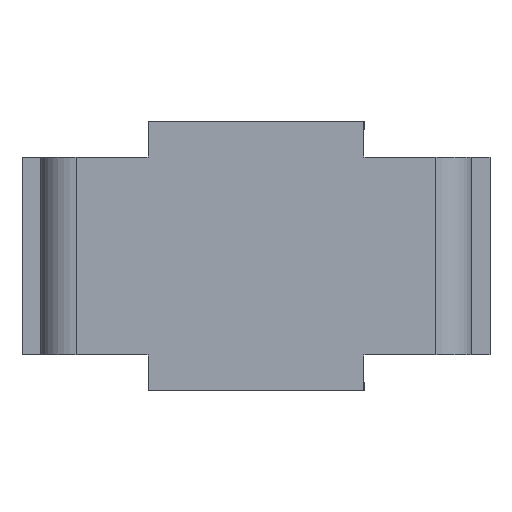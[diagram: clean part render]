
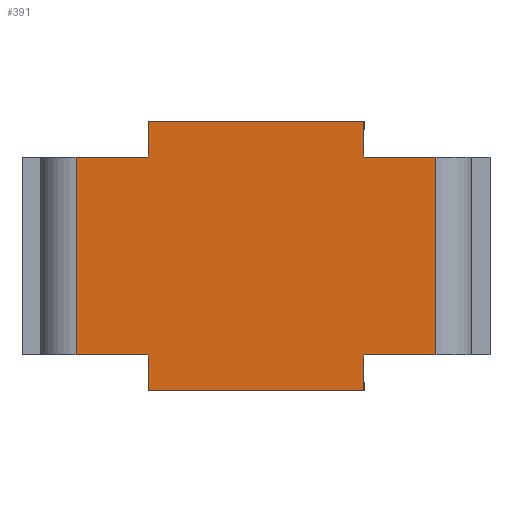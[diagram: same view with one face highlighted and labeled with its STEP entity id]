
A CAD part, left-side view. The second image highlights one B-rep face of the part: STEP entity #391.
In plain terms, the highlighted planar face has unit normal (-1, 0, 0).
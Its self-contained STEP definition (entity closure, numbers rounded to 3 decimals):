
#12 = CARTESIAN_POINT ( 'NONE',  ( -44., -6., 7.5 ) ) ;
#24 = VERTEX_POINT ( 'NONE', #90 ) ;
#57 = EDGE_CURVE ( 'NONE', #892, #147, #296, .T. ) ;
#63 = ORIENTED_EDGE ( 'NONE', *, *, #594, .F. ) ;
#81 = ORIENTED_EDGE ( 'NONE', *, *, #153, .T. ) ;
#90 = CARTESIAN_POINT ( 'NONE',  ( -44., -6., 5.5 ) ) ;
#94 = VECTOR ( 'NONE', #1123, 1000. ) ;
#118 = LINE ( 'NONE', #12, #1078 ) ;
#120 = DIRECTION ( 'NONE',  ( 0., 0., -1. ) ) ;
#147 = VERTEX_POINT ( 'NONE', #530 ) ;
#153 = EDGE_CURVE ( 'NONE', #467, #644, #1217, .T. ) ;
#157 = VECTOR ( 'NONE', #437, 1000. ) ;
#170 = VECTOR ( 'NONE', #427, 1000. ) ;
#178 = VECTOR ( 'NONE', #219, 1000. ) ;
#188 = ORIENTED_EDGE ( 'NONE', *, *, #952, .F. ) ;
#214 = VECTOR ( 'NONE', #886, 1000. ) ;
#218 = EDGE_CURVE ( 'NONE', #467, #147, #579, .T. ) ;
#219 = DIRECTION ( 'NONE',  ( 0., 0., -1. ) ) ;
#226 = AXIS2_PLACEMENT_3D ( 'NONE', #495, #403, #458 ) ;
#245 = VERTEX_POINT ( 'NONE', #812 ) ;
#246 = LINE ( 'NONE', #641, #94 ) ;
#257 = LINE ( 'NONE', #399, #406 ) ;
#259 = DIRECTION ( 'NONE',  ( 0., -1., 0. ) ) ;
#275 = LINE ( 'NONE', #1038, #664 ) ;
#296 = LINE ( 'NONE', #1033, #1138 ) ;
#308 = CARTESIAN_POINT ( 'NONE',  ( -44., -6., 7.5 ) ) ;
#316 = CARTESIAN_POINT ( 'NONE',  ( -44., 10., 5.5 ) ) ;
#320 = VERTEX_POINT ( 'NONE', #1090 ) ;
#353 = VECTOR ( 'NONE', #732, 1000. ) ;
#368 = CARTESIAN_POINT ( 'NONE',  ( -44., -6., 7.5 ) ) ;
#369 = EDGE_CURVE ( 'NONE', #245, #892, #946, .T. ) ;
#391 = ADVANCED_FACE ( 'NONE', ( #1117 ), #597, .F. ) ;
#399 = CARTESIAN_POINT ( 'NONE',  ( -44., 6., 7.5 ) ) ;
#403 = DIRECTION ( 'NONE',  ( 1., 0., 0. ) ) ;
#406 = VECTOR ( 'NONE', #120, 1000. ) ;
#408 = LINE ( 'NONE', #465, #524 ) ;
#411 = ORIENTED_EDGE ( 'NONE', *, *, #1128, .T. ) ;
#427 = DIRECTION ( 'NONE',  ( 0., 0., 1. ) ) ;
#437 = DIRECTION ( 'NONE',  ( 0., -1., 0. ) ) ;
#453 = LINE ( 'NONE', #922, #353 ) ;
#458 = DIRECTION ( 'NONE',  ( 0., 0., -1. ) ) ;
#460 = ORIENTED_EDGE ( 'NONE', *, *, #218, .F. ) ;
#465 = CARTESIAN_POINT ( 'NONE',  ( -44., -10., 5.5 ) ) ;
#467 = VERTEX_POINT ( 'NONE', #912 ) ;
#474 = ORIENTED_EDGE ( 'NONE', *, *, #577, .F. ) ;
#486 = CARTESIAN_POINT ( 'NONE',  ( -44., -6., -7.5 ) ) ;
#495 = CARTESIAN_POINT ( 'NONE',  ( -44., 13., 5.5 ) ) ;
#499 = CARTESIAN_POINT ( 'NONE',  ( -44., 13., 5.5 ) ) ;
#505 = ORIENTED_EDGE ( 'NONE', *, *, #369, .T. ) ;
#506 = EDGE_LOOP ( 'NONE', ( #1089, #460, #81, #552, #633, #411, #188, #520, #63, #634, #474, #505 ) ) ;
#520 = ORIENTED_EDGE ( 'NONE', *, *, #715, .F. ) ;
#524 = VECTOR ( 'NONE', #758, 1000. ) ;
#530 = CARTESIAN_POINT ( 'NONE',  ( -44., 6., -5.5 ) ) ;
#552 = ORIENTED_EDGE ( 'NONE', *, *, #1019, .T. ) ;
#566 = CARTESIAN_POINT ( 'NONE',  ( -44., 10., -5.5 ) ) ;
#571 = VERTEX_POINT ( 'NONE', #992 ) ;
#576 = DIRECTION ( 'NONE',  ( 0., 0., -1. ) ) ;
#577 = EDGE_CURVE ( 'NONE', #245, #571, #986, .T. ) ;
#579 = LINE ( 'NONE', #1004, #170 ) ;
#594 = EDGE_CURVE ( 'NONE', #1009, #1118, #911, .T. ) ;
#597 = PLANE ( 'NONE',  #226 ) ;
#603 = CARTESIAN_POINT ( 'NONE',  ( -44., -10., -5.5 ) ) ;
#631 = EDGE_CURVE ( 'NONE', #1009, #571, #257, .T. ) ;
#633 = ORIENTED_EDGE ( 'NONE', *, *, #1087, .T. ) ;
#634 = ORIENTED_EDGE ( 'NONE', *, *, #631, .T. ) ;
#641 = CARTESIAN_POINT ( 'NONE',  ( -44., -6., -7.5 ) ) ;
#644 = VERTEX_POINT ( 'NONE', #486 ) ;
#664 = VECTOR ( 'NONE', #846, 1000. ) ;
#679 = VERTEX_POINT ( 'NONE', #1162 ) ;
#715 = EDGE_CURVE ( 'NONE', #1118, #24, #118, .T. ) ;
#732 = DIRECTION ( 'NONE',  ( 0., -1., 0. ) ) ;
#739 = CARTESIAN_POINT ( 'NONE',  ( -44., 6., 7.5 ) ) ;
#758 = DIRECTION ( 'NONE',  ( 0., 0., 1. ) ) ;
#812 = CARTESIAN_POINT ( 'NONE',  ( -44., 10., 5.5 ) ) ;
#840 = VERTEX_POINT ( 'NONE', #603 ) ;
#846 = DIRECTION ( 'NONE',  ( 0., -1., 0. ) ) ;
#886 = DIRECTION ( 'NONE',  ( 0., -1., 0. ) ) ;
#892 = VERTEX_POINT ( 'NONE', #566 ) ;
#893 = VECTOR ( 'NONE', #895, 1000. ) ;
#895 = DIRECTION ( 'NONE',  ( 0., -1., 0. ) ) ;
#911 = LINE ( 'NONE', #308, #214 ) ;
#912 = CARTESIAN_POINT ( 'NONE',  ( -44., 6., -7.5 ) ) ;
#922 = CARTESIAN_POINT ( 'NONE',  ( -44., 13., 5.5 ) ) ;
#946 = LINE ( 'NONE', #316, #178 ) ;
#952 = EDGE_CURVE ( 'NONE', #24, #320, #453, .T. ) ;
#986 = LINE ( 'NONE', #499, #893 ) ;
#992 = CARTESIAN_POINT ( 'NONE',  ( -44., 6., 5.5 ) ) ;
#1004 = CARTESIAN_POINT ( 'NONE',  ( -44., 6., -7.5 ) ) ;
#1009 = VERTEX_POINT ( 'NONE', #739 ) ;
#1019 = EDGE_CURVE ( 'NONE', #644, #679, #246, .T. ) ;
#1033 = CARTESIAN_POINT ( 'NONE',  ( -44., 13., -5.5 ) ) ;
#1038 = CARTESIAN_POINT ( 'NONE',  ( -44., 13., -5.5 ) ) ;
#1078 = VECTOR ( 'NONE', #576, 1000. ) ;
#1087 = EDGE_CURVE ( 'NONE', #679, #840, #275, .T. ) ;
#1089 = ORIENTED_EDGE ( 'NONE', *, *, #57, .T. ) ;
#1090 = CARTESIAN_POINT ( 'NONE',  ( -44., -10., 5.5 ) ) ;
#1112 = CARTESIAN_POINT ( 'NONE',  ( -44., -6., -7.5 ) ) ;
#1117 = FACE_OUTER_BOUND ( 'NONE', #506, .T. ) ;
#1118 = VERTEX_POINT ( 'NONE', #368 ) ;
#1123 = DIRECTION ( 'NONE',  ( 0., 0., 1. ) ) ;
#1128 = EDGE_CURVE ( 'NONE', #840, #320, #408, .T. ) ;
#1138 = VECTOR ( 'NONE', #259, 1000. ) ;
#1162 = CARTESIAN_POINT ( 'NONE',  ( -44., -6., -5.5 ) ) ;
#1217 = LINE ( 'NONE', #1112, #157 ) ;
